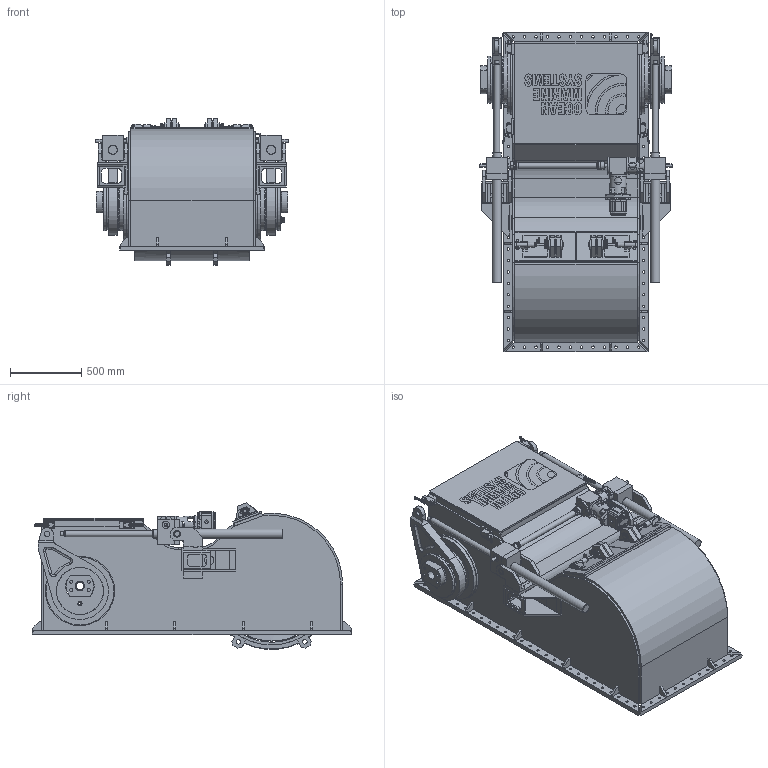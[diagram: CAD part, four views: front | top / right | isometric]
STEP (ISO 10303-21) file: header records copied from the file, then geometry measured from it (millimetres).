
FILE_DESCRIPTION(/* description */ (''),/* implementation_level */ '2;1');
FILE_NAME(/* name */ 'Q:\THRUSTERS\THRUSTER SALES & SUPPORT DOCS\THRUSTER Sales\H-S\H-0800-S\H-0800-S Retracted.stp',/* time_stamp */ '2021-01-26T12:48:16+00:00',/* author */ ('Barney.Webborn'),/* organization */ (''),/* preprocessor_version */ 'ST-DEVELOPER v17.2',/* originating_system */ 'Autodesk Inventor 2019',/* authorisation */ '');
FILE_SCHEMA (('AUTOMOTIVE_DESIGN { 1 0 10303 214 3 1 1 }'));
Length unit declared in the file: millimetre
Products named in the file (1): H-0800-S_Shrinkwrap_1
Bounding box: 1349 x 2238 x 1026.05 mm (x, y, z)
Volume: 312820642.4 mm3; surface area: 31669528.5 mm2
Topology: 13 solids, 13 shells, 5631 faces, 15080 edges, 9621 vertices
Faces by surface type: plane 2613, cylinder 1296, bspline 1173, cone 336, torus 165, sphere 48
Full cylindrical faces by diameter (mm): 3 x12, 7.2 x4, 8 x4, 10 x8, 12 x2, 15.6 x2, 15.8 x16, 16 x18, 16.5 x8, 17 x82, 17.5 x12, 17.78 x1, 18.376 x4, 20 x9, 21 x8, 23.75 x2, 24.5 x2, 24.962 x2, 24.98 x1, 25 x7, 25.5 x1, 26.25 x2, 28 x2, 29.425 x1, 30 x3, 30.291 x1, 30.861 x1, 31.25 x3, 31.42 x1, 32 x4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
Entity records: 281768 total; most frequent: CARTESIAN_POINT 140478, ORIENTED_EDGE 29994, DIRECTION 25698, EDGE_CURVE 14997, VERTEX_POINT 9621, AXIS2_PLACEMENT_3D 8887, LINE 7924, VECTOR 7924
